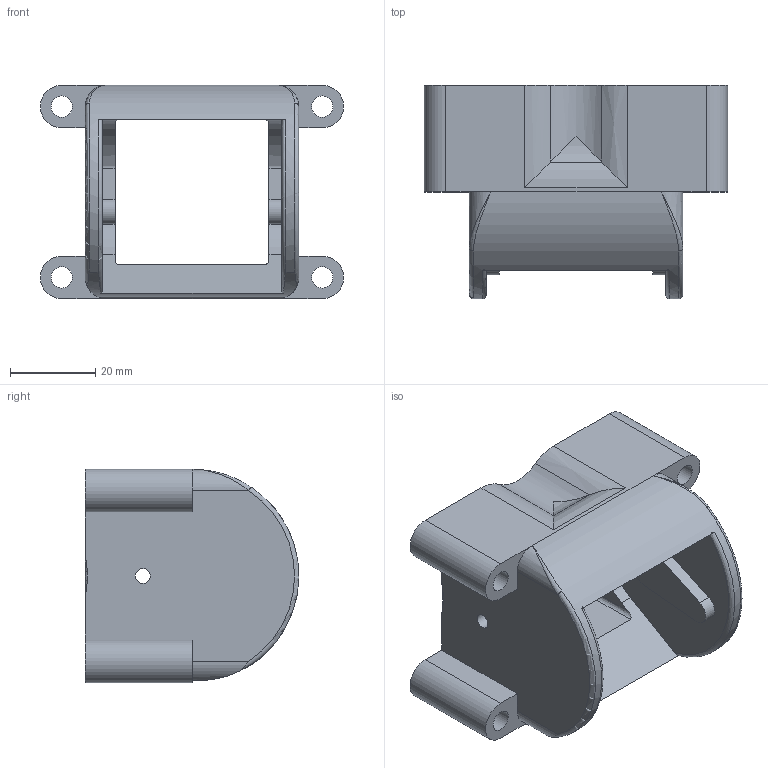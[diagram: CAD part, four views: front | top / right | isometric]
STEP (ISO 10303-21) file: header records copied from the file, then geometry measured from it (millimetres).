
FILE_DESCRIPTION((''),'2;1');
FILE_NAME('C:\Uebbing\PARAMETERKETTEN\PFR\PFR 221\PFR 221 SFA Zapfen R100.stp','2012-03-30T08:17:51',('Uebbing'),(''),'Autodesk Inventor 10','Autodesk Inventor 10','');
FILE_SCHEMA(('AUTOMOTIVE_DESIGN { 1 0 10303 214 1 1 1 1 }'));
Length unit declared in the file: millimetre
Products named in the file (1): PFR 221 SFA Zapfen R100
Bounding box: 71 x 50 x 50 mm (x, y, z)
Volume: 48091.6 mm3; surface area: 20919.6 mm2
Topology: 1 solids, 1 shells, 73 faces, 205 edges, 133 vertices
Faces by surface type: cylinder 26, plane 22, bspline 22, torus 3
Full cylindrical faces by diameter (mm): 3.5 x1, 5 x4
Entity records: 3282 total; most frequent: CARTESIAN_POINT 1447, ORIENTED_EDGE 394, DIRECTION 344, EDGE_CURVE 197, VERTEX_POINT 133, AXIS2_PLACEMENT_3D 121, VECTOR 102, LINE 102
